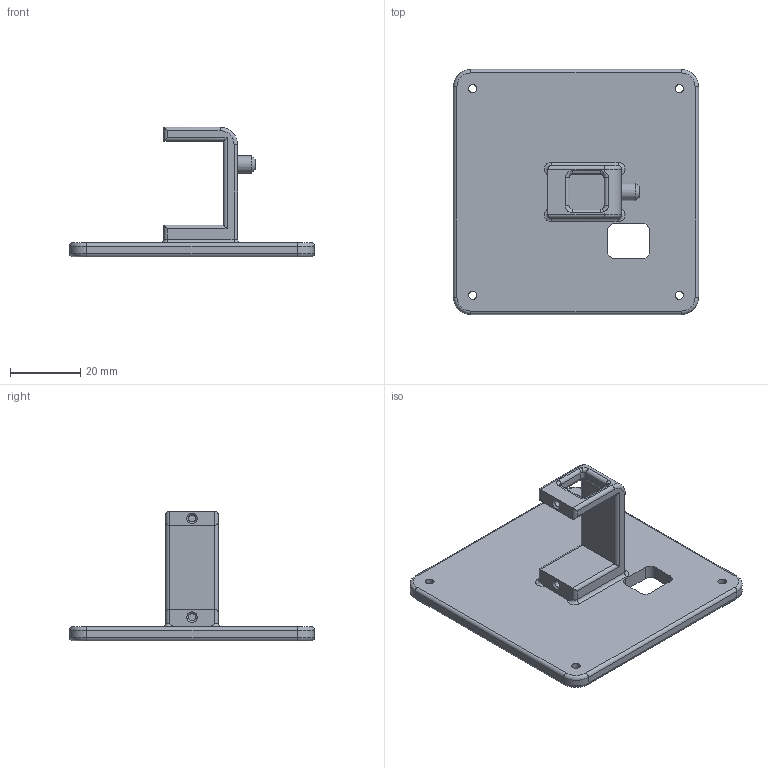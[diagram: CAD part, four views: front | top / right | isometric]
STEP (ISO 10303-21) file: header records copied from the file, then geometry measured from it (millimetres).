
FILE_DESCRIPTION(('Open CASCADE Model'),'2;1');
FILE_NAME('Open CASCADE Shape Model','2026-11-02T18:56:18',('Author'),( 'Open CASCADE'),'Open CASCADE STEP processor 7.9','Open CASCADE 7.9' ,'Unknown');
FILE_SCHEMA(('AUTOMOTIVE_DESIGN { 1 0 10303 214 1 1 1 1 }'));
Length unit declared in the file: millimetre
Products named in the file (1): Open CASCADE STEP translator 7.9 3
Bounding box: 70 x 70 x 37 mm (x, y, z)
Volume: 22638.6 mm3; surface area: 12608.8 mm2
Topology: 1 solids, 1 shells, 104 faces, 250 edges, 148 vertices
Faces by surface type: cylinder 52, plane 25, torus 22, cone 3, bspline 2
Full cylindrical faces by diameter (mm): 2 x2, 2.4 x4, 5 x1
Entity records: 7017 total; most frequent: CARTESIAN_POINT 1901, DIRECTION 998, LINE 509, VECTOR 509, ORIENTED_EDGE 500, PCURVE 500, DEFINITIONAL_REPRESENTATION 500, EDGE_CURVE 250
